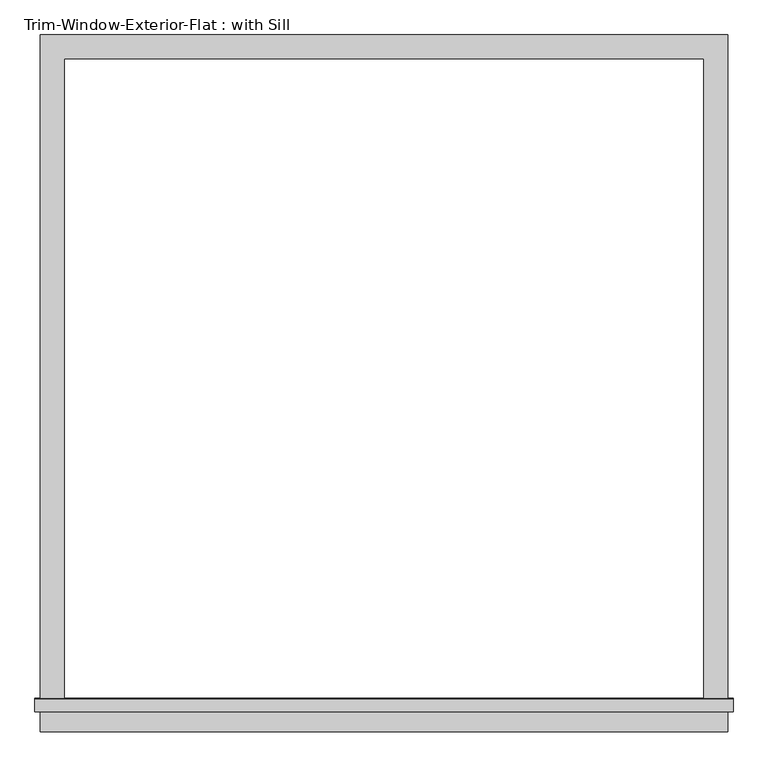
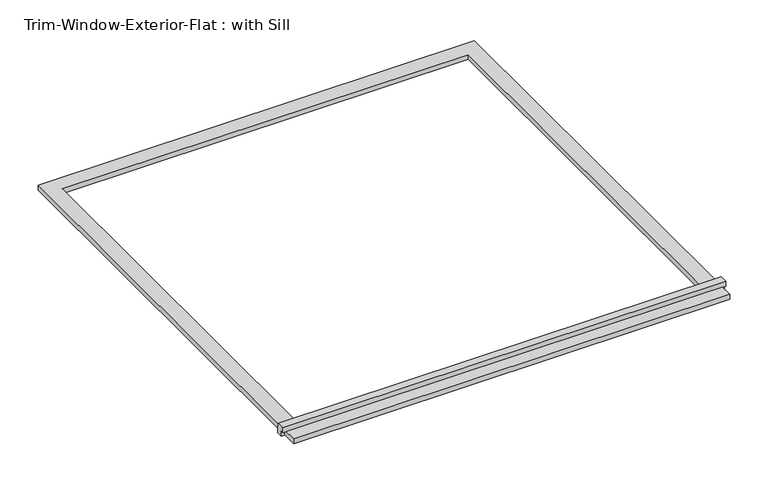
"""IFC4 building model written with IfcOpenShell, lengths in millimetres: proxy geometry, Trim-Window-Exterior-Flat : with Sill."""

import ifcopenshell
import ifcopenshell.guid

model = None  # the IFC model being written
_history = None  # IfcOwnerHistory: only IFC2X3 demands one
_inside = {}  # id of a spatial element -> (the spatial element, [elements in it])
_under = {}  # id of a project, library or spatial element -> (it, [spatial elements below it])
_declared = {}  # id of a project -> (the project, [libraries it declares])
_typed = {}  # id of a type object -> (the type object, [elements of that type])
_made_of = {}  # id of a material, layer set ... -> (it, [elements and type objects made of it])


def new_model(schema):
    """Start an empty IFC model of exactly this schema.

    Asked for "IFC4X3", IfcOpenShell would pick the latest addendum, in which some entities
    have other attributes; the version numbers below select the first issue.
    IFC2X3 requires an IfcOwnerHistory on every rooted entity: one is made here for all.
    """
    global model, _history
    if schema == "IFC4X3":
        model = ifcopenshell.file(schema_version=(4, 3, 0, 0))
    else:
        model = ifcopenshell.file(schema=schema)
    _inside.clear()
    _under.clear()
    _declared.clear()
    _typed.clear()
    _made_of.clear()
    _history = None
    if model.schema == "IFC2X3":
        org = make("IfcOrganization", Name="unknown")
        user = make(
            "IfcPersonAndOrganization",
            ThePerson=make("IfcPerson", FamilyName="unknown"),
            TheOrganization=org,
        )
        app = make(
            "IfcApplication",
            ApplicationDeveloper=org,
            Version="unknown",
            ApplicationFullName="unknown",
            ApplicationIdentifier="unknown",
        )
        _history = make(
            "IfcOwnerHistory",
            OwningUser=user,
            OwningApplication=app,
            ChangeAction="ADDED",
            CreationDate=0,
        )
    return model


def make(cls, **values):
    """One entity of the class cls with the attributes given. An attribute that is None is left unset."""
    return model.create_entity(
        cls, **{name: value for name, value in values.items() if value is not None}
    )


def rooted(cls, **values):
    """An entity with a GlobalId (a new one), such as an element, a storey or a relation."""
    return make(cls, GlobalId=ifcopenshell.guid.new(), OwnerHistory=_history, **values)


def si_unit(unit_type, name, prefix=None):
    """IfcSIUnit, for example si_unit("LENGTHUNIT", "METRE", prefix="MILLI")."""
    return make("IfcSIUnit", UnitType=unit_type, Prefix=prefix, Name=name)


def assignment(units):
    """IfcUnitAssignment: the units of a project."""
    return None if units is None else make("IfcUnitAssignment", Units=units)


def point(xyz):
    """IfcCartesianPoint."""
    return None if xyz is None else make("IfcCartesianPoint", Coordinates=xyz)


def direction(xyz):
    """IfcDirection."""
    return None if xyz is None else make("IfcDirection", DirectionRatios=xyz)


def frame(location, z_axis=None, x_axis=None):
    """IfcAxis2Placement3D, a coordinate frame: its origin and axes. An axis left out is left unset."""
    return make(
        "IfcAxis2Placement3D",
        Location=point(location),
        Axis=direction(z_axis),
        RefDirection=direction(x_axis),
    )


def origin():
    """The frame at (0, 0, 0) with its axes left unset."""
    return frame((0.0, 0.0, 0.0))


def origin_with_axes():
    """The frame at (0, 0, 0) with the z axis (0, 0, 1) and the x axis (1, 0, 0) written out."""
    return frame((0.0, 0.0, 0.0), z_axis=(0.0, 0.0, 1.0), x_axis=(1.0, 0.0, 0.0))


def place(relative_to, where):
    """IfcLocalPlacement: puts the frame where relative to a parent placement (None: the world)."""
    return make(
        "IfcLocalPlacement", PlacementRelTo=relative_to, RelativePlacement=where
    )


def context(
    kind, dimensions, precision=None, world=None, true_north=None, identifier=None
):
    """IfcGeometricRepresentationContext, for example the 3D "Model" context."""
    return make(
        "IfcGeometricRepresentationContext",
        ContextIdentifier=identifier,
        ContextType=kind,
        CoordinateSpaceDimension=dimensions,
        Precision=precision,
        WorldCoordinateSystem=world,
        TrueNorth=true_north,
    )


def project(units=None, contexts=None):
    """IfcProject with its units and contexts."""
    return rooted(
        "IfcProject",
        Name="project",
        RepresentationContexts=contexts,
        UnitsInContext=assignment(units),
    )


def spatial(cls, under=None, at=None, **own):
    """A site, building, storey or space (cls), placed at a placement, below another one or the project."""
    s = rooted(cls, ObjectPlacement=at, **own)
    if under is not None:
        _under.setdefault(under.id(), (under, []))[1].append(s)
    return s


def polyline(points):
    """IfcPolyline through the points."""
    return make("IfcPolyline", Points=[point(p) for p in points])


def outline(outer, holes=None, kind="AREA"):
    """IfcArbitraryClosedProfileDef: a profile drawn as a closed curve; with holes, ...WithVoids."""
    if holes is None:
        return make("IfcArbitraryClosedProfileDef", ProfileType=kind, OuterCurve=outer)
    return make(
        "IfcArbitraryProfileDefWithVoids",
        ProfileType=kind,
        OuterCurve=outer,
        InnerCurves=holes,
    )


def extrude(swept, where, along, depth):
    """IfcExtrudedAreaSolid: the profile swept, set in the frame where, extruded along a direction by depth."""
    return make(
        "IfcExtrudedAreaSolid",
        SweptArea=swept,
        Position=where,
        ExtrudedDirection=direction(along),
        Depth=depth,
    )


def shape(context_of_items, identifier, shape_type, items):
    """IfcShapeRepresentation: the items that make up one representation, for example the "Body"."""
    return make(
        "IfcShapeRepresentation",
        ContextOfItems=context_of_items,
        RepresentationIdentifier=identifier,
        RepresentationType=shape_type,
        Items=items,
    )


def source(mapping_origin, context_of_items, identifier, shape_type, items):
    """IfcRepresentationMap: a shape defined once, which mapped items show again and again."""
    return make(
        "IfcRepresentationMap",
        MappingOrigin=mapping_origin,
        MappedRepresentation=shape(context_of_items, identifier, shape_type, items),
    )


def transform(
    local_origin,
    x_axis=None,
    y_axis=None,
    z_axis=None,
    scale=None,
    scale2=None,
    scale3=None,
    uniform=True,
):
    """IfcCartesianTransformationOperator3D, or its non-uniform kind. x_axis, y_axis, z_axis: its Axis1, 2, 3."""
    if uniform:
        return make(
            "IfcCartesianTransformationOperator3D",
            Axis1=direction(x_axis),
            Axis2=direction(y_axis),
            LocalOrigin=point(local_origin),
            Scale=scale,
            Axis3=direction(z_axis),
        )
    return make(
        "IfcCartesianTransformationOperator3DnonUniform",
        Axis1=direction(x_axis),
        Axis2=direction(y_axis),
        LocalOrigin=point(local_origin),
        Scale=scale,
        Axis3=direction(z_axis),
        Scale2=scale2,
        Scale3=scale3,
    )


def mapped(mapping_source, mapping_target):
    """IfcMappedItem: shows the shape of a source again, moved by a transform."""
    return make(
        "IfcMappedItem", MappingSource=mapping_source, MappingTarget=mapping_target
    )


def made_of(thing, what):
    """Note that an element or type object is made of a material, layer set ...; save() writes the relation."""
    if what is not None:
        _made_of.setdefault(what.id(), (what, []))[1].append(thing)
    return thing


def element(
    cls,
    number,
    at=None,
    inside=None,
    cuts=None,
    type_object=None,
    material=None,
    context=None,
    identifier="Body",
    shape_type=None,
    held_by="IfcProductDefinitionShape",
    body=None,
    shapes=None,
    **own,
):
    """One element of the class cls, such as IfcWall. Its Tag is "e" and its number.

    at: its placement. inside: the storey or other place that contains it. cuts: it is an
    opening in that element (IfcRelVoidsElement). A single representation is given by context,
    identifier, shape_type and body (its items); several are given by shapes. held_by: the class
    of the entity that holds the representations. save() writes the other relations.
    """
    e = rooted(cls, Tag="e%d" % number, ObjectPlacement=at, **own)
    if body is not None:
        shapes = [shape(context, identifier, shape_type, body)]
    if shapes is not None:
        e.Representation = make(held_by, Representations=shapes)
    if inside is not None:
        _inside.setdefault(inside.id(), (inside, []))[1].append(e)
    if cuts is not None:
        rooted(
            "IfcRelVoidsElement", RelatingBuildingElement=cuts, RelatedOpeningElement=e
        )
    if type_object is not None:
        _typed.setdefault(type_object.id(), (type_object, []))[1].append(e)
    return made_of(e, material)


def aggregate(whole, parts):
    """IfcRelAggregates: a whole, such as a stair, and the parts it consists of."""
    return rooted("IfcRelAggregates", RelatingObject=whole, RelatedObjects=parts)


def save(model, path):
    """Write the relations noted so far, then the file.

    IfcRelAggregates (storeys below a building ...), IfcRelContainedInSpatialStructure (elements
    in a storey), IfcRelDefinesByType, IfcRelAssociatesMaterial and IfcRelDeclares: one each for
    every whole, place, type object, material and project.
    """
    for whole, parts in _under.values():
        aggregate(whole, parts)
    for where, things in _inside.values():
        rooted(
            "IfcRelContainedInSpatialStructure",
            RelatedElements=things,
            RelatingStructure=where,
        )
    for kind, things in _typed.values():
        rooted("IfcRelDefinesByType", RelatedObjects=things, RelatingType=kind)
    for what, things in _made_of.values():
        rooted("IfcRelAssociatesMaterial", RelatedObjects=things, RelatingMaterial=what)
    for by, libraries in _declared.values():
        rooted("IfcRelDeclares", RelatingContext=by, RelatedDefinitions=libraries)
    model.write(path)


def trim_window_exterior_flat_with_sill_05ca63db(model_context):
    return source(origin(), model_context, "Body", "SweptSolid", [
        extrude(outline(polyline([(819.15, -1546.1823709), (819.15, -1603.3323709), (-819.15, -1603.3323709), (-819.15, -1546.1823709), (819.15, -1546.1823709)])), origin_with_axes(), (0.0, 0.0, 1.0), 19.05),
        extrude(outline(polyline([(-1555.75, 38.1), (-1526.4580645, 38.1), (-1524.0, 19.05), (-1524.0, 0.0), (-1546.1823709, 0.0), (-1546.1823709, 19.05), (-1555.75, 19.05), (-1555.75, 38.1)])), frame((-831.85, 0.0, 0.0), z_axis=(1.0, 0.0, 0.0), x_axis=(0.0, 1.0, 0.0)), (0.0, 0.0, 1.0), 1663.7),
        extrude(outline(polyline([(-819.15, 57.15), (819.15, 57.15), (819.15, -1524.0), (762.0, -1524.0), (762.0, 0.0), (-762.0, 0.0), (-762.0, -1524.0), (-819.15, -1524.0), (-819.15, 57.15)])), origin_with_axes(), (0.0, 0.0, 1.0), 19.05),
    ])


if __name__ == "__main__":
    model = new_model("IFC4")
    model_context = context("Model", 3, world=origin())
    ifc_project = project(units=[si_unit("LENGTHUNIT", "METRE", prefix="MILLI")], contexts=[model_context])
    site = spatial("IfcSite", under=ifc_project)
    building = spatial("IfcBuilding", under=site)
    placement = place(None, origin())
    trim_window_exterior_flat_with_sill_shape = trim_window_exterior_flat_with_sill_05ca63db(model_context)
    element("IfcBuildingElementProxy", 1, Name="Trim-Window-Exterior-Flat : with Sill", ObjectType="Trim-Window-Exterior-Flat : with Sill", at=placement, inside=building, context=model_context, shape_type="MappedRepresentation", body=[
        mapped(trim_window_exterior_flat_with_sill_shape, transform((0.0, 0.0, 0.0), x_axis=(1.0, 0.0, 0.0), y_axis=(0.0, 1.0, 0.0), z_axis=(0.0, 0.0, 1.0))),
    ])
    save(model, "model.ifc")
